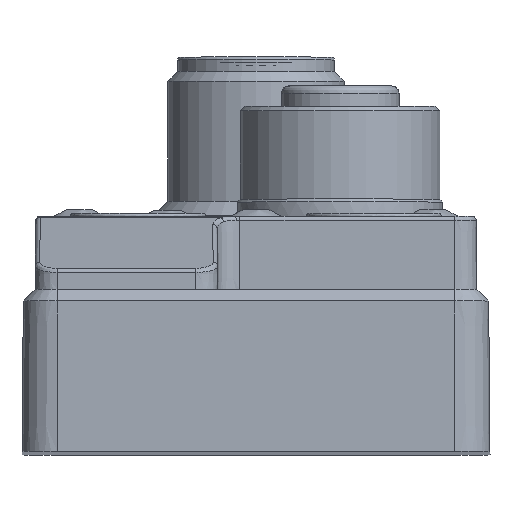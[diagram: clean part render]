
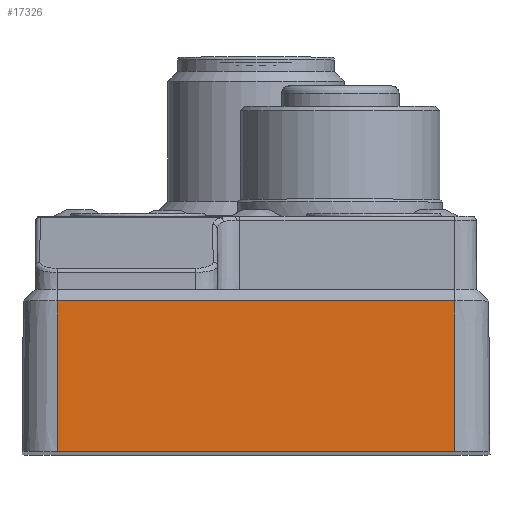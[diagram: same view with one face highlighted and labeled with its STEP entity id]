
A CAD part, top view. The second image highlights one B-rep face of the part: STEP entity #17326.
In plain terms, the highlighted planar face has unit normal (0, 0.009, 1).
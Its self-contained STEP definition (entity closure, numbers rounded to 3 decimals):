
#1325 = ORIENTED_EDGE ( 'NONE', *, *, #3477, .F. ) ;
#2657 = ORIENTED_EDGE ( 'NONE', *, *, #20347, .F. ) ;
#3041 = DIRECTION ( 'NONE',  ( 0., -0.009, -1. ) ) ;
#3477 = EDGE_CURVE ( 'NONE', #8807, #28734, #31201, .T. ) ;
#4034 = VERTEX_POINT ( 'NONE', #32173 ) ;
#5911 = CARTESIAN_POINT ( 'NONE',  ( 15., -8.004, 79.096 ) ) ;
#7582 = LINE ( 'NONE', #21070, #31397 ) ;
#8807 = VERTEX_POINT ( 'NONE', #17472 ) ;
#10260 = DIRECTION ( 'NONE',  ( 0., -1., 0.009 ) ) ;
#11082 = ORIENTED_EDGE ( 'NONE', *, *, #20299, .F. ) ;
#12458 = LINE ( 'NONE', #39488, #29925 ) ;
#13073 = FACE_OUTER_BOUND ( 'NONE', #28449, .T. ) ;
#16362 = CARTESIAN_POINT ( 'NONE',  ( 13.5, 2.996, 79. ) ) ;
#17326 = ADVANCED_FACE ( 'NONE', ( #13073 ), #27727, .F. ) ;
#17472 = CARTESIAN_POINT ( 'NONE',  ( 13.5, 2.211, 79.007 ) ) ;
#17553 = DIRECTION ( 'NONE',  ( 1., 0., 0. ) ) ;
#19520 = AXIS2_PLACEMENT_3D ( 'NONE', #21653, #3041, #28280 ) ;
#20299 = EDGE_CURVE ( 'NONE', #4034, #30946, #12458, .T. ) ;
#20347 = EDGE_CURVE ( 'NONE', #30946, #8807, #7582, .T. ) ;
#21070 = CARTESIAN_POINT ( 'NONE',  ( 0., 2.211, 79.007 ) ) ;
#21653 = CARTESIAN_POINT ( 'NONE',  ( 0., 2.996, 79. ) ) ;
#22399 = CARTESIAN_POINT ( 'NONE',  ( 13.5, -8.004, 79.096 ) ) ;
#22448 = LINE ( 'NONE', #5911, #23841 ) ;
#23841 = VECTOR ( 'NONE', #24933, 1000. ) ;
#23923 = EDGE_CURVE ( 'NONE', #28734, #4034, #22448, .T. ) ;
#24577 = ORIENTED_EDGE ( 'NONE', *, *, #23923, .F. ) ;
#24933 = DIRECTION ( 'NONE',  ( -1., 0., 0. ) ) ;
#27727 = PLANE ( 'NONE',  #19520 ) ;
#28280 = DIRECTION ( 'NONE',  ( 0., 1., -0.009 ) ) ;
#28449 = EDGE_LOOP ( 'NONE', ( #2657, #11082, #24577, #1325 ) ) ;
#28734 = VERTEX_POINT ( 'NONE', #22399 ) ;
#29925 = VECTOR ( 'NONE', #33496, 1000. ) ;
#30874 = CARTESIAN_POINT ( 'NONE',  ( -13.5, 2.211, 79.007 ) ) ;
#30946 = VERTEX_POINT ( 'NONE', #30874 ) ;
#31201 = LINE ( 'NONE', #16362, #32688 ) ;
#31397 = VECTOR ( 'NONE', #17553, 1000. ) ;
#32173 = CARTESIAN_POINT ( 'NONE',  ( -13.5, -8.004, 79.096 ) ) ;
#32688 = VECTOR ( 'NONE', #10260, 1000. ) ;
#33496 = DIRECTION ( 'NONE',  ( 0., 1., -0.009 ) ) ;
#39488 = CARTESIAN_POINT ( 'NONE',  ( -13.5, -499000., 4433.733 ) ) ;
